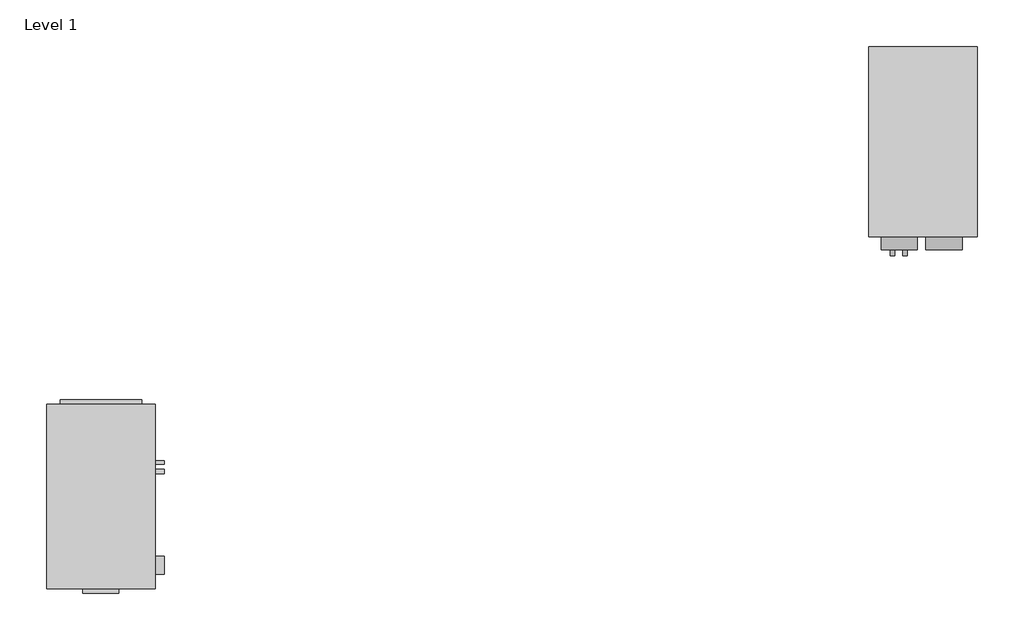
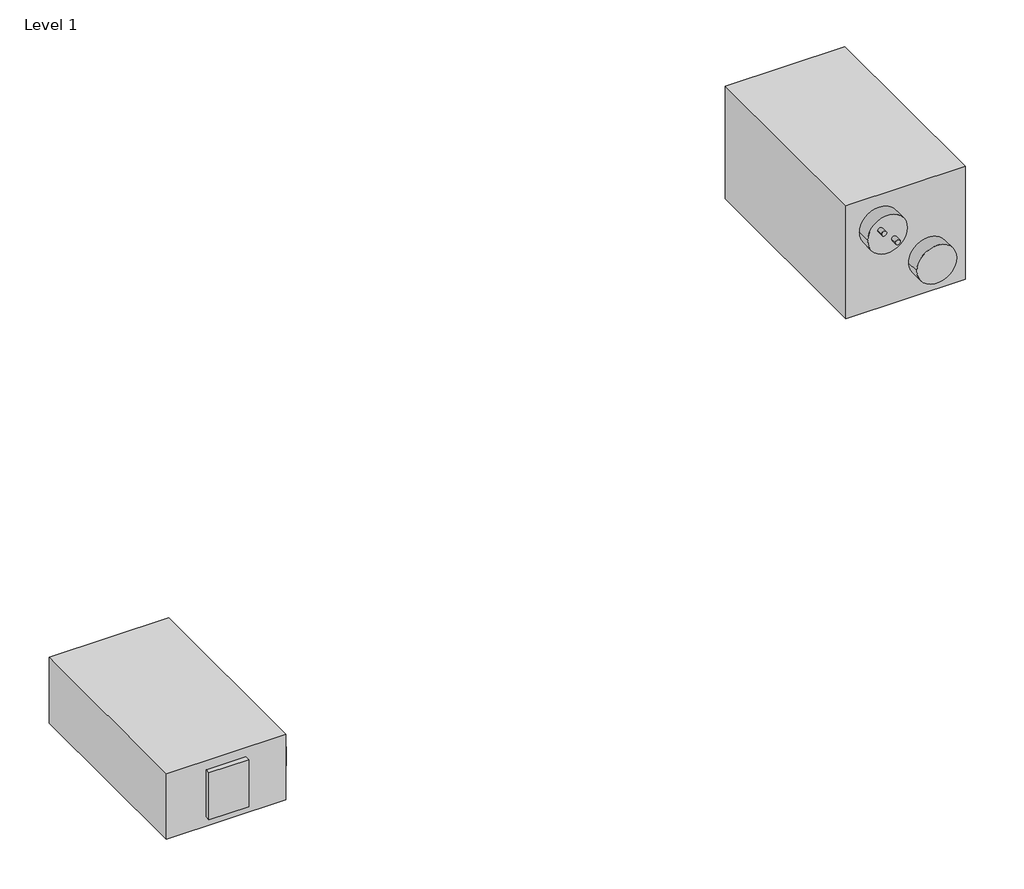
# One storey, incomplete: 2 proxies.
"""IFC4 building model written with IfcOpenShell, lengths in millimetres."""

from ifc_helpers import new_model, si_unit, origin, place, context, project, spatial, transform, mapped, element, save
from components import simple_chiller_simple_chiller_1b9d3f8d, unit_size_12_6a13f6ba

model = new_model("IFC4")

# Units and contexts
model_context = context("Model", 3, world=origin())
ifc_project = project(units=[si_unit("LENGTHUNIT", "METRE", prefix="MILLI")], contexts=[model_context])

# Site, building, storey
site = spatial("IfcSite", under=ifc_project)
building = spatial("IfcBuilding", under=site)
storey = spatial("IfcBuildingStorey", under=building, Name="Level 1", Elevation=0.0)

# Proxies
placement = place(None, origin())
simple_chiller_simple_chiller_shape = simple_chiller_simple_chiller_1b9d3f8d(model_context)
element("IfcBuildingElementProxy", 1, Name="Simple Chiller : Simple Chiller", ObjectType="Simple Chiller : Simple Chiller", at=placement, inside=storey, context=model_context, shape_type="MappedRepresentation", body=[
    mapped(simple_chiller_simple_chiller_shape, transform((4606.9379829, 806.4734484, 0.0), x_axis=(0.0, 1.0, 0.0), y_axis=(-1.0, 0.0, 0.0), z_axis=(0.0, 0.0, 1.0))),
])
unit_size_12_shape = unit_size_12_6a13f6ba(model_context)
element("IfcBuildingElementProxy", 2, Name="Indoor AHU - Horizontal - Chilled Water Coil : Unit Size 12", ObjectType="Indoor AHU - Horizontal - Chilled Water Coil : Unit Size 12", at=placement, inside=storey, context=model_context, shape_type="MappedRepresentation", body=[
    mapped(unit_size_12_shape, transform((-8.6024336, -1170.8743616, 0.0), x_axis=(0.0, 1.0, 0.0), y_axis=(-1.0, 0.0, 0.0), z_axis=(0.0, 0.0, 1.0))),
])

save(model, "model.ifc")
